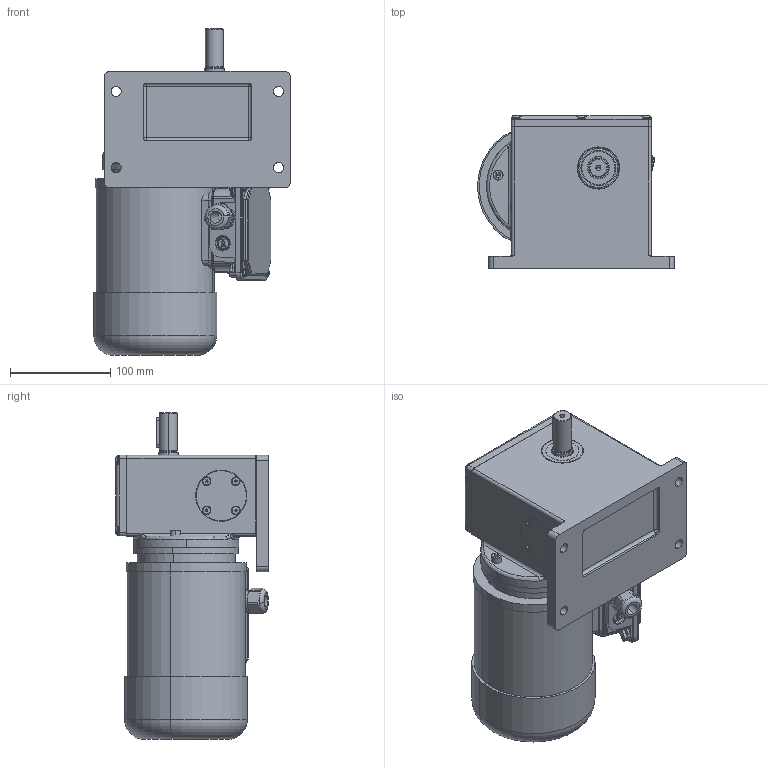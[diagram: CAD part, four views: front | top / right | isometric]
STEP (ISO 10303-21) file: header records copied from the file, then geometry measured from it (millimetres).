
FILE_DESCRIPTION (( 'STEP AP214' ), '1' );
FILE_NAME ('SN7_250W_Drehstrom-Motor.STEP', '2022-08-25T10:24:05', ( '' ), ( '' ), 'SwSTEP 2.0', 'SolidWorks 2021', '' );
FILE_SCHEMA (( 'AUTOMOTIVE_DESIGN' ));
Length unit declared in the file: millimetre
Products named in the file (16): 01-D-001_3D_Export; 07-W-005_3D_Export; 07-M-039 I 250W_2800Upm; slotted cheese head screw_iso_ISO 1207 - M5 x 6 - 6C; 07-D-012_3D_Export; socket head cap screw_iso_ISO 4762 M6 x 20 - 20C; slotted pan head screw_iso_ISO 1580 - M5 x 16 - 16C; socket set screw flat point_iso_ISO 4026 - M6 x 45-C; PF_A6x6x30; 07-G-006_3D_Export; NBR_WDR_20x42x7; U-Seal Ring Ø5; SN7_250W_Drehstrom-Motor; socket countersunk head screw_iso_ISO 10642 - M4 x 10 - 10C; SN7_3D_Export; socket head cap screw_iso_ISO 4762 M6 x 30 - 30C
Assembly tree (30 placements, depth 3):
  SN7_250W_Drehstrom-Motor
    SN7_3D_Export
      07-G-006_3D_Export
      07-W-005_3D_Export
      07-D-012_3D_Export
      01-D-001_3D_Export  x2
      PF_A6x6x30
      NBR_WDR_20x42x7
      U-Seal Ring Ø5  x2
      socket countersunk head screw_iso_ISO 10642 - M4 x 10 - 10C  x8
      slotted cheese head screw_iso_ISO 1207 - M5 x 6 - 6C  x2
      socket head cap screw_iso_ISO 4762 M6 x 20 - 20C
      socket set screw flat point_iso_ISO 4026 - M6 x 45-C
      slotted pan head screw_iso_ISO 1580 - M5 x 16 - 16C  x6
      socket head cap screw_iso_ISO 4762 M6 x 30 - 30C
    07-M-039 I 250W_2800Upm
Bounding box: 195.77 x 152.3 x 326 mm (x, y, z)
Volume: 4360589.5 mm3; surface area: 319380.5 mm2
Topology: 30 solids, 30 shells, 1568 faces, 3747 edges, 2243 vertices
Faces by surface type: plane 500, cylinder 460, cone 250, bspline 161, torus 155, sphere 42
Entity records: 44372 total; most frequent: CARTESIAN_POINT 15422, ORIENTED_EDGE 6116, DIRECTION 5379, EDGE_CURVE 3058, AXIS2_PLACEMENT_3D 2114, VERTEX_POINT 1880, EDGE_LOOP 1396, ADVANCED_FACE 1282
